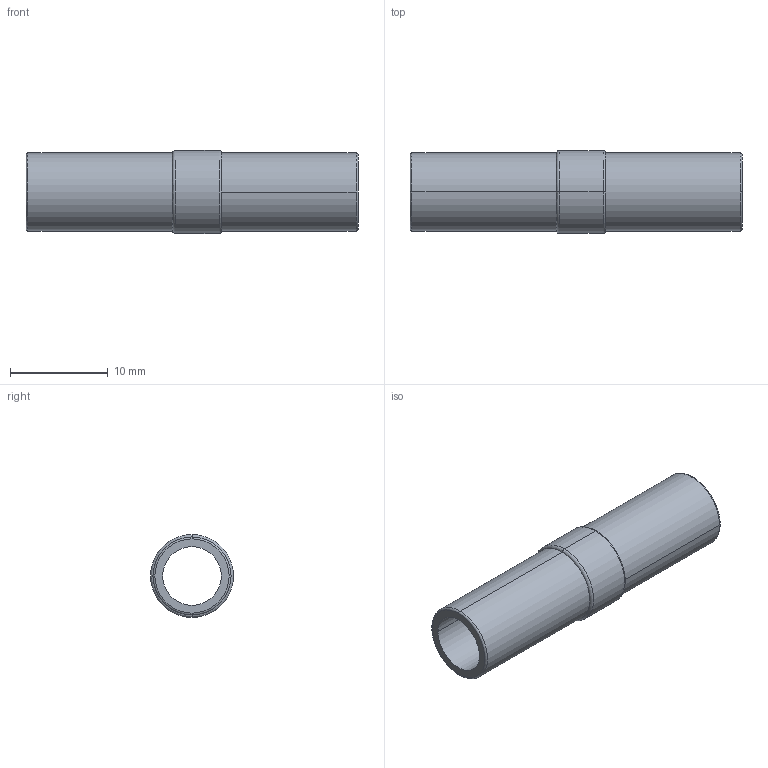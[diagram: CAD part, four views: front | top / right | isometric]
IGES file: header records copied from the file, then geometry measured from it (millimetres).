
Global section: file name: No Iges File Name specified; native system: AutoDesk Inventor R11.0; preprocessor: AutoDesk Inventor Iges Exporter R11.0; author: No Author specified; organization: No Organization specified; date: 20120321.163606; units: millimetre
Bounding box: 34 x 8.5 x 8.5 mm (x, y, z)
Volume: 779 mm3; surface area: 1550.2 mm2
Topology: 1 solids, 1 shells, 19 faces, 42 edges, 26 vertices
Faces by surface type: cylinder 6, torus 6, plane 3, revolution 2, bspline 2
